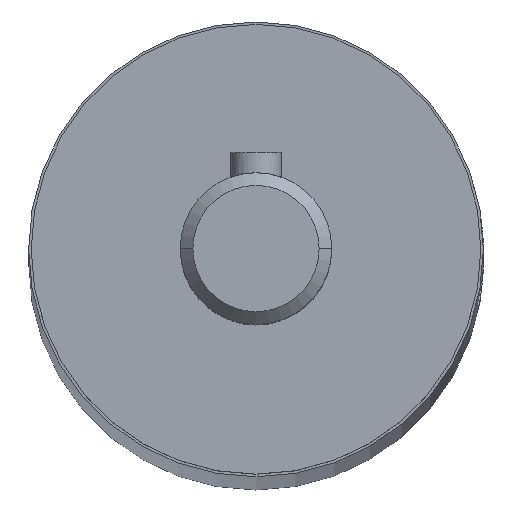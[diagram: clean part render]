
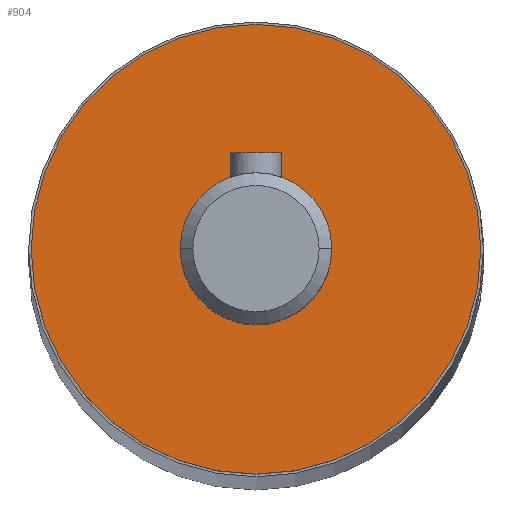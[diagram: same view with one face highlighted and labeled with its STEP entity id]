
A CAD part, top view. The second image highlights one B-rep face of the part: STEP entity #904.
In plain terms, the highlighted planar face has unit normal (0, 0, 1).
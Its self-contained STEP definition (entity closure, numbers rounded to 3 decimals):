
#8 = EDGE_CURVE ( 'NONE', #177, #1528, #1408, .T. ) ;
#10 = CARTESIAN_POINT ( 'NONE',  ( 0., 0., 152.5 ) ) ;
#35 = DIRECTION ( 'NONE',  ( 0., 0., 1. ) ) ;
#63 = ORIENTED_EDGE ( 'NONE', *, *, #1695, .F. ) ;
#79 = EDGE_LOOP ( 'NONE', ( #1391, #686 ) ) ;
#150 = EDGE_CURVE ( 'NONE', #1230, #495, #1481, .T. ) ;
#177 = VERTEX_POINT ( 'NONE', #614 ) ;
#255 = EDGE_CURVE ( 'NONE', #495, #1230, #1519, .T. ) ;
#287 = CIRCLE ( 'NONE', #1164, 3. ) ;
#293 = AXIS2_PLACEMENT_3D ( 'NONE', #10, #420, #1465 ) ;
#344 = CARTESIAN_POINT ( 'NONE',  ( 0., 0., 152.5 ) ) ;
#378 = DIRECTION ( 'NONE',  ( 0., 0., 1. ) ) ;
#406 = FACE_OUTER_BOUND ( 'NONE', #79, .T. ) ;
#420 = DIRECTION ( 'NONE',  ( 0., 0., 1. ) ) ;
#448 = CARTESIAN_POINT ( 'NONE',  ( 8.9, 0., 152.5 ) ) ;
#492 = DIRECTION ( 'NONE',  ( 1., 0., 0. ) ) ;
#495 = VERTEX_POINT ( 'NONE', #599 ) ;
#510 = DIRECTION ( 'NONE',  ( 0., 0., 1. ) ) ;
#514 = DIRECTION ( 'NONE',  ( 1., 0., 0. ) ) ;
#599 = CARTESIAN_POINT ( 'NONE',  ( -8.9, 0., 152.5 ) ) ;
#614 = CARTESIAN_POINT ( 'NONE',  ( 3., 0., 152.5 ) ) ;
#661 = FACE_BOUND ( 'NONE', #731, .T. ) ;
#674 = AXIS2_PLACEMENT_3D ( 'NONE', #1338, #35, #492 ) ;
#686 = ORIENTED_EDGE ( 'NONE', *, *, #150, .T. ) ;
#731 = EDGE_LOOP ( 'NONE', ( #63, #1087 ) ) ;
#904 = ADVANCED_FACE ( 'NONE', ( #661, #406 ), #1238, .T. ) ;
#1044 = DIRECTION ( 'NONE',  ( 1., 0., 0. ) ) ;
#1087 = ORIENTED_EDGE ( 'NONE', *, *, #8, .F. ) ;
#1164 = AXIS2_PLACEMENT_3D ( 'NONE', #1679, #378, #1044 ) ;
#1230 = VERTEX_POINT ( 'NONE', #448 ) ;
#1238 = PLANE ( 'NONE',  #293 ) ;
#1248 = AXIS2_PLACEMENT_3D ( 'NONE', #344, #1317, #1628 ) ;
#1305 = CARTESIAN_POINT ( 'NONE',  ( -3., 0., 152.5 ) ) ;
#1317 = DIRECTION ( 'NONE',  ( 0., 0., 1. ) ) ;
#1338 = CARTESIAN_POINT ( 'NONE',  ( 0., 0., 152.5 ) ) ;
#1351 = AXIS2_PLACEMENT_3D ( 'NONE', #1808, #510, #514 ) ;
#1391 = ORIENTED_EDGE ( 'NONE', *, *, #255, .T. ) ;
#1408 = CIRCLE ( 'NONE', #1351, 3. ) ;
#1465 = DIRECTION ( 'NONE',  ( 1., 0., 0. ) ) ;
#1481 = CIRCLE ( 'NONE', #1248, 8.9 ) ;
#1519 = CIRCLE ( 'NONE', #674, 8.9 ) ;
#1528 = VERTEX_POINT ( 'NONE', #1305 ) ;
#1628 = DIRECTION ( 'NONE',  ( 1., 0., 0. ) ) ;
#1679 = CARTESIAN_POINT ( 'NONE',  ( 0., 0., 152.5 ) ) ;
#1695 = EDGE_CURVE ( 'NONE', #1528, #177, #287, .T. ) ;
#1808 = CARTESIAN_POINT ( 'NONE',  ( 0., 0., 152.5 ) ) ;
